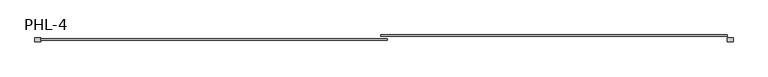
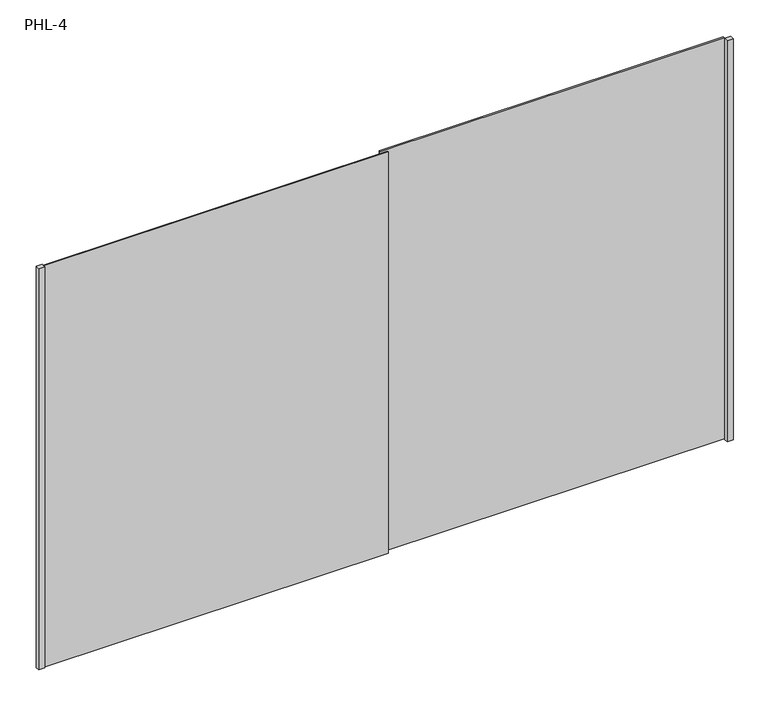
"""IFC4 building model written with IfcOpenShell, lengths in millimetres: furniture geometry, Puerta Closet corre 2 hojas : PHL-4."""

from ifc_helpers import new_model, si_unit, origin, origin_with_axes, place, context, project, spatial, polyline, outline, extrude, source, transform, mapped, element, save


def phl_4_a9a60cb6(model_context):
    return source(origin(), model_context, "Body", "SweptSolid", [
        extrude(outline(polyline([(1195.0, 80.0), (1165.0, 80.0), (1165.0, 100.0), (1195.0, 100.0), (1195.0, 80.0)])), origin_with_axes(), (0.0, 0.0, 1.0), 2120.0),
        extrude(outline(polyline([(1165.0, 106.6666667), (-555.0, 106.6666667), (-555.0, 113.3333333), (1165.0, 113.3333333), (1165.0, 106.6666667)])), origin_with_axes(), (0.0, 0.0, 1.0), 2120.0),
        extrude(outline(polyline([(-525.0, 86.6666667), (-2245.0, 86.6666667), (-2245.0, 93.3333333), (-525.0, 93.3333333), (-525.0, 86.6666667)])), origin_with_axes(), (0.0, 0.0, 1.0), 2120.0),
        extrude(outline(polyline([(-2275.0, 80.0), (-2275.0, 100.0), (-2245.0, 100.0), (-2245.0, 80.0), (-2275.0, 80.0)])), origin_with_axes(), (0.0, 0.0, 1.0), 2120.0),
    ])


if __name__ == "__main__":
    model = new_model("IFC4")
    model_context = context("Model", 3, world=origin())
    ifc_project = project(units=[si_unit("LENGTHUNIT", "METRE", prefix="MILLI")], contexts=[model_context])
    site = spatial("IfcSite", under=ifc_project)
    building = spatial("IfcBuilding", under=site)
    placement = place(None, origin())
    phl_4_shape = phl_4_a9a60cb6(model_context)
    element("IfcFurniture", 1, ObjectType="Puerta Closet corre 2 hojas : PHL-4", at=placement, inside=building, context=model_context, shape_type="MappedRepresentation", body=[
        mapped(phl_4_shape, transform((0.0, 0.0, 0.0), x_axis=(1.0, 0.0, 0.0), y_axis=(0.0, 1.0, 0.0), z_axis=(0.0, 0.0, 1.0))),
    ])
    save(model, "model.ifc")
